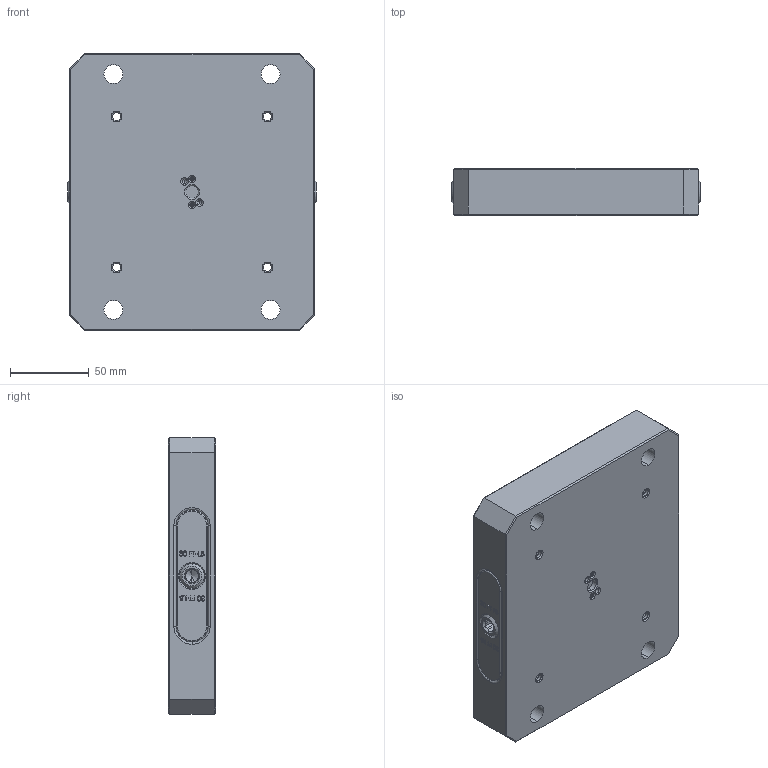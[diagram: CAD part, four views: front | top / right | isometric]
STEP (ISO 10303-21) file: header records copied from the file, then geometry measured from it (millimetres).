
FILE_DESCRIPTION (( 'STEP AP214' ), '1' );
FILE_NAME ('RL96S-67M.STEP', '2019-07-29T18:23:35', ( '' ), ( '' ), 'SwSTEP 2.0', 'SolidWorks 2018', '' );
FILE_SCHEMA (( 'AUTOMOTIVE_DESIGN' ));
Length unit declared in the file: millimetre
Products named in the file (9): RL96-ASSY; SB54_FINISHED PART; 27X20.DB; RL96-3; 033.OR in Shape of Truck; RL96-2R; RL96-2L; RL96-167MS; RL96S-67M
Assembly tree (13 placements, depth 3):
  RL96S-67M
    RL96-167MS
    RL96-ASSY
      RL96-2L
      RL96-2R
      033.OR in Shape of Truck  x2
      RL96-3
      27X20.DB  x4
      SB54_FINISHED PART  x2
Bounding box: 158 x 30 x 176 mm (x, y, z)
Volume: 721718 mm3; surface area: 136860.3 mm2
Topology: 12 solids, 12 shells, 885 faces, 2173 edges, 1360 vertices
Faces by surface type: plane 417, cylinder 210, cone 113, bspline 97, torus 48
Entity records: 32879 total; most frequent: CARTESIAN_POINT 11775, ORIENTED_EDGE 3990, DIRECTION 3639, EDGE_CURVE 1995, VERTEX_POINT 1262, AXIS2_PLACEMENT_3D 1230, VECTOR 1179, LINE 1179
